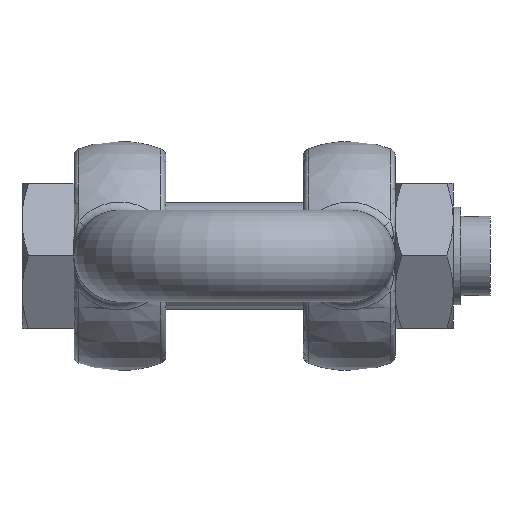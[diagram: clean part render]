
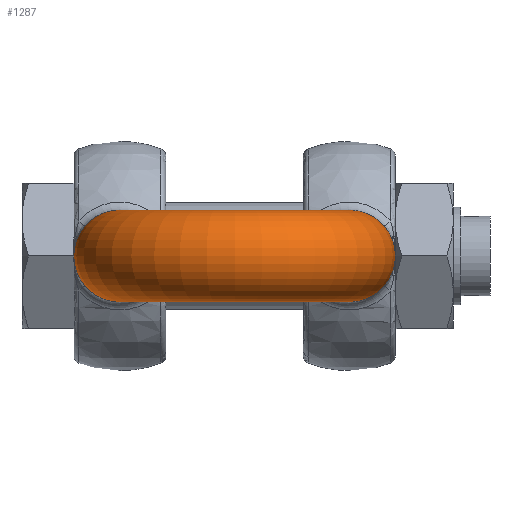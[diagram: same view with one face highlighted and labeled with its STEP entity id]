
A CAD part, front view. The second image highlights one B-rep face of the part: STEP entity #1287.
In plain terms, the highlighted toroidal (fillet/blend) face has major radius 75 mm and minor radius 30 mm.
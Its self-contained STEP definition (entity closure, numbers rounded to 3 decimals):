
#123=TOROIDAL_SURFACE('',#1460,75.,30.);
#234=FACE_OUTER_BOUND('',#323,.T.);
#323=EDGE_LOOP('',(#1029,#1030,#1031,#1032,#1033,#1034));
#486=CIRCLE('',#1458,30.);
#487=CIRCLE('',#1459,30.);
#488=CIRCLE('',#1461,45.);
#489=CIRCLE('',#1462,30.);
#490=CIRCLE('',#1463,30.);
#579=VERTEX_POINT('',#2940);
#580=VERTEX_POINT('',#2942);
#581=VERTEX_POINT('',#2946);
#582=VERTEX_POINT('',#2948);
#739=EDGE_CURVE('',#579,#580,#486,.T.);
#740=EDGE_CURVE('',#580,#579,#487,.T.);
#741=EDGE_CURVE('',#580,#581,#488,.T.);
#742=EDGE_CURVE('',#581,#582,#489,.T.);
#743=EDGE_CURVE('',#582,#581,#490,.T.);
#1029=ORIENTED_EDGE('',*,*,#740,.F.);
#1030=ORIENTED_EDGE('',*,*,#741,.T.);
#1031=ORIENTED_EDGE('',*,*,#742,.T.);
#1032=ORIENTED_EDGE('',*,*,#743,.T.);
#1033=ORIENTED_EDGE('',*,*,#741,.F.);
#1034=ORIENTED_EDGE('',*,*,#739,.F.);
#1287=ADVANCED_FACE('',(#234),#123,.T.);
#1458=AXIS2_PLACEMENT_3D('',#2943,#1691,#1692);
#1459=AXIS2_PLACEMENT_3D('',#2944,#1693,#1694);
#1460=AXIS2_PLACEMENT_3D('',#2945,#1695,#1696);
#1461=AXIS2_PLACEMENT_3D('',#2947,#1697,#1698);
#1462=AXIS2_PLACEMENT_3D('',#2949,#1699,#1700);
#1463=AXIS2_PLACEMENT_3D('',#2950,#1701,#1702);
#1691=DIRECTION('center_axis',(0.,1.,0.));
#1692=DIRECTION('ref_axis',(1.,0.,0.));
#1693=DIRECTION('center_axis',(0.,1.,0.));
#1694=DIRECTION('ref_axis',(1.,0.,0.));
#1695=DIRECTION('center_axis',(0.,0.,-1.));
#1696=DIRECTION('ref_axis',(-1.,0.,0.));
#1697=DIRECTION('center_axis',(0.,0.,1.));
#1698=DIRECTION('ref_axis',(-1.,0.,0.));
#1699=DIRECTION('center_axis',(0.,-1.,0.));
#1700=DIRECTION('ref_axis',(-1.,0.,0.));
#1701=DIRECTION('center_axis',(0.,-1.,0.));
#1702=DIRECTION('ref_axis',(-1.,0.,0.));
#2940=CARTESIAN_POINT('',(-105.,105.,0.));
#2942=CARTESIAN_POINT('',(-45.,105.,0.));
#2943=CARTESIAN_POINT('Origin',(-75.,105.,0.));
#2944=CARTESIAN_POINT('Origin',(-75.,105.,0.));
#2945=CARTESIAN_POINT('Origin',(0.,105.,0.));
#2946=CARTESIAN_POINT('',(45.,105.,0.));
#2947=CARTESIAN_POINT('Origin',(0.,105.,0.));
#2948=CARTESIAN_POINT('',(105.,105.,0.));
#2949=CARTESIAN_POINT('Origin',(75.,105.,0.));
#2950=CARTESIAN_POINT('Origin',(75.,105.,0.));
